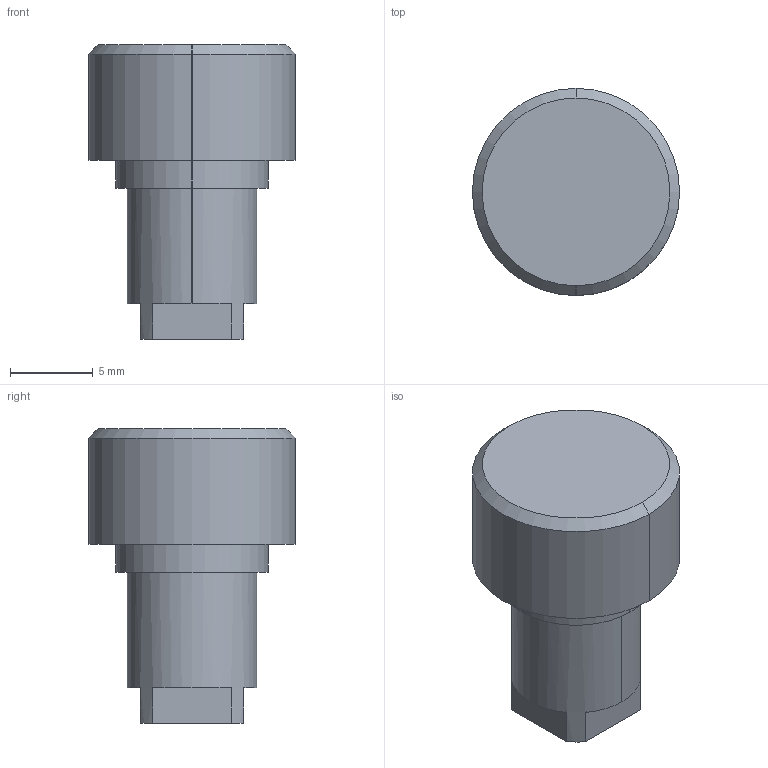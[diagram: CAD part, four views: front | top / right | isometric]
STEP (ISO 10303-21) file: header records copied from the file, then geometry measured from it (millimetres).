
FILE_DESCRIPTION((''),'1');
FILE_NAME('1','2001-04-17T',('jlue'),(''),'PRO/ENGINEER BY PARAMETRIC TECHNOLOGY CORPORATION, 9846','PRO/ENGINEER BY PARAMETRIC TECHNOLOGY CORPORATION, 9846','');
FILE_SCHEMA(('CONFIG_CONTROL_DESIGN'));
Length unit declared in the file: inch
Products named in the file (1): 1
Bounding box: 12.5 x 12.5 x 17.78 mm (x, y, z)
Surface area: 974.8 mm2 (no closed solid volume)
Topology: 0 solids, 0 shells, 23 faces, 109 edges, 110 vertices
Faces by surface type: plane 13, cylinder 8, cone 2
Entity records: 631 total; most frequent: DIRECTION 129, COMPOSITE_CURVE_SEGMENT 108, CARTESIAN_POINT 80, TRIMMED_CURVE 57, AXIS2_PLACEMENT_3D 49, VECTOR 31, LINE 31, CIRCLE 26
